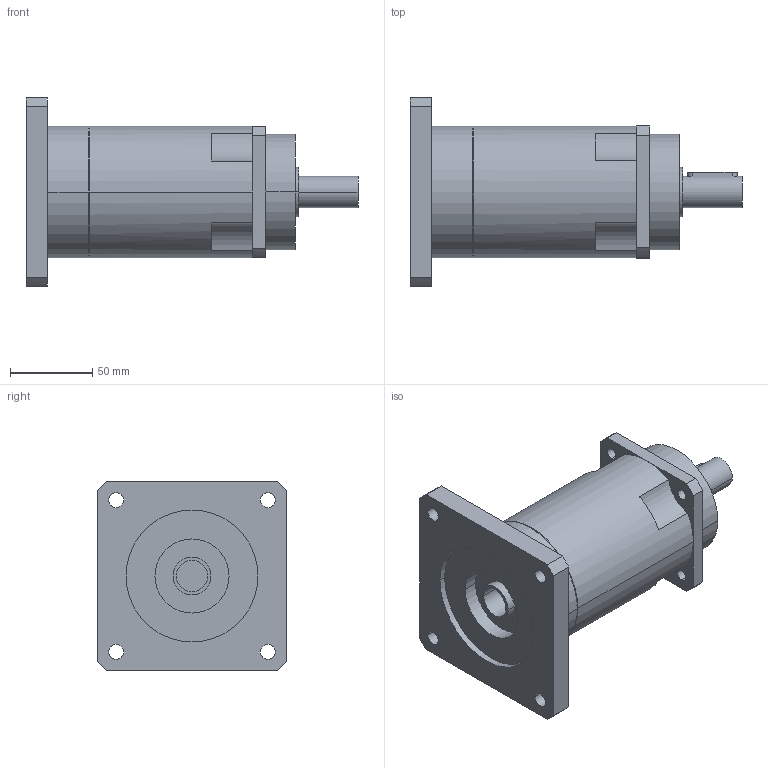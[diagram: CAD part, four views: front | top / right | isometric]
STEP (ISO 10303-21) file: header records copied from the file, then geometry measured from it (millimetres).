
FILE_DESCRIPTION(('CoCreate Modeling STEP Export'),'2;1');
FILE_NAME('GPR100_ig-48-64-80-100-120-144-180-216_19_B5_19_P30.stp','2014-08-26T11:56:34',(''),(''),'CoCreate Modeling STEP processor for AP214 (Solid Model)','CoCreate Modeling 16.00C 25-Feb-2009 (C) Parametric Technology GmbH','');
FILE_SCHEMA(('AUTOMOTIVE_DESIGN { 1 0 10303 214 1 1 1 1 }'));
Length unit declared in the file: millimetre
Products named in the file (2): GPR100_ig-48-64-80-100-120-144-180-216_19_B5_19_P30
Assembly tree (1 placements, depth 2):
  GPR100_ig-48-64-80-100-120-144-180-216_19_B5_19_P30
    GPR100_ig-48-64-80-100-120-144-180-216_19_B5_19_P30
Bounding box: 201.4 x 115 x 115 mm (x, y, z)
Volume: 873158.5 mm3; surface area: 82341.2 mm2
Topology: 1 solids, 1 shells, 86 faces, 235 edges, 159 vertices
Faces by surface type: cylinder 50, plane 30, cone 6
Entity records: 2517 total; most frequent: ORIENTED_EDGE 466, CARTESIAN_POINT 458, DIRECTION 376, EDGE_CURVE 233, VERTEX_POINT 159, AXIS2_PLACEMENT_3D 141, EDGE_LOOP 112, VECTOR 94
